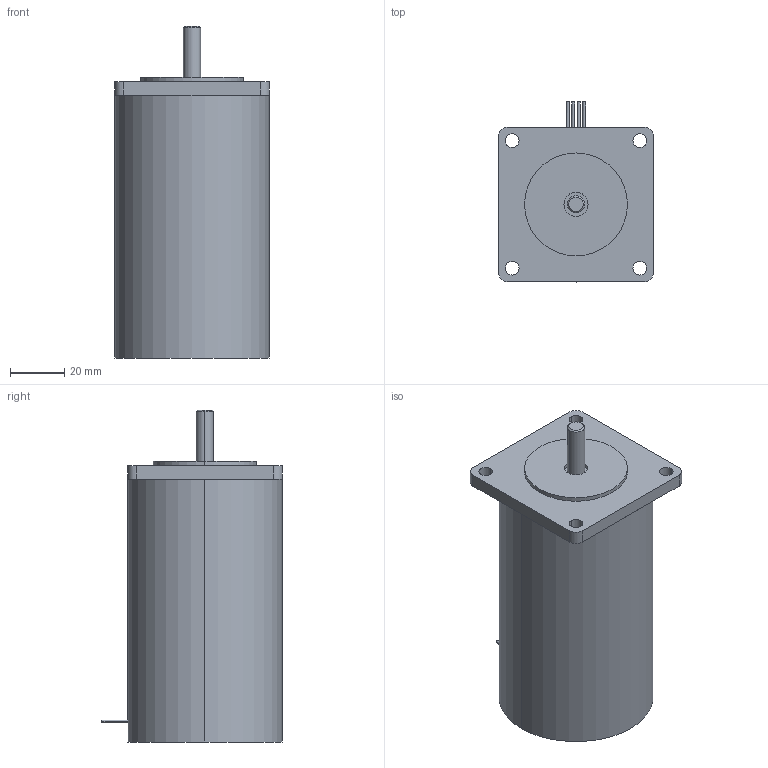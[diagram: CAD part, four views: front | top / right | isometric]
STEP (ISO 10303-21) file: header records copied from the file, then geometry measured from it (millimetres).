
FILE_DESCRIPTION((''),'2;1');
FILE_NAME('C:\Documents and Settings\rbadgerow\Desktop\webmodelmain\web step 3d\5618c\5618c s.stp','2005-05-23T06:48:12',('rbadgerow'),(''),'Autodesk Inventor 9','Autodesk Inventor 9','');
FILE_SCHEMA(('AUTOMOTIVE_DESIGN { 1 0 10303 214 1 1 1 1 }'));
Length unit declared in the file: inch
Products named in the file (1): 5618c s
Bounding box: 57.15 x 66.67 x 122.94 mm (x, y, z)
Volume: 267992 mm3; surface area: 26035.9 mm2
Topology: 1 solids, 1 shells, 50 faces, 113 edges, 73 vertices
Faces by surface type: cylinder 30, plane 18, cone 2
Entity records: 1579 total; most frequent: CARTESIAN_POINT 373, DIRECTION 264, ORIENTED_EDGE 226, EDGE_CURVE 113, AXIS2_PLACEMENT_3D 108, VERTEX_POINT 73, EDGE_LOOP 66, CIRCLE 57
